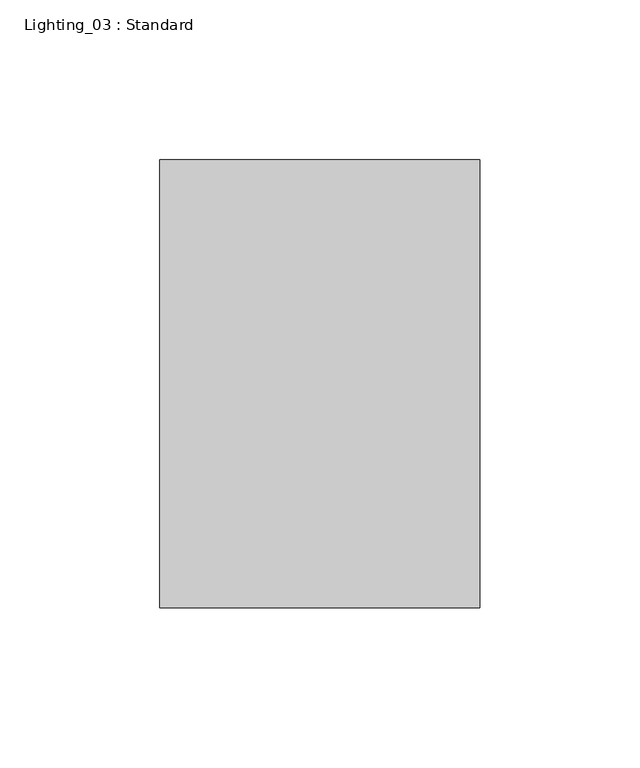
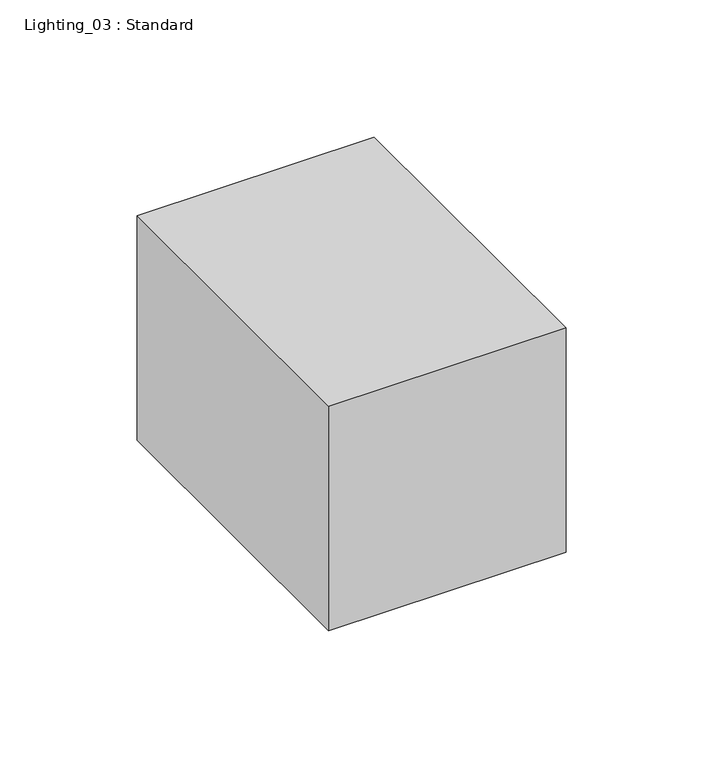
"""IFC4 building model written with IfcOpenShell, lengths in millimetres: light fixture geometry, Lighting_03 : Standard."""

from ifc_helpers import new_model, si_unit, origin, origin_with_axes, place, context, project, spatial, polyline, outline, extrude, source, transform, mapped, element, save


def lighting_03_standard_314ac76f(model_context):
    return source(origin(), model_context, "Body", "SweptSolid", [
        extrude(outline(polyline([(50.0, 70.0), (50.0, -70.0), (-50.0, -70.0), (-50.0, 70.0), (50.0, 70.0)])), origin_with_axes(), (0.0, 0.0, 1.0), 100.0),
    ])


if __name__ == "__main__":
    model = new_model("IFC4")
    model_context = context("Model", 3, world=origin())
    ifc_project = project(units=[si_unit("LENGTHUNIT", "METRE", prefix="MILLI")], contexts=[model_context])
    site = spatial("IfcSite", under=ifc_project)
    building = spatial("IfcBuilding", under=site)
    placement = place(None, origin())
    lighting_03_standard_shape = lighting_03_standard_314ac76f(model_context)
    element("IfcLightFixture", 1, ObjectType="Lighting_03 : Standard", at=placement, inside=building, context=model_context, shape_type="MappedRepresentation", body=[
        mapped(lighting_03_standard_shape, transform((0.0, 0.0, 0.0), x_axis=(1.0, 0.0, 0.0), y_axis=(0.0, 1.0, 0.0), z_axis=(0.0, 0.0, 1.0))),
    ])
    save(model, "model.ifc")
